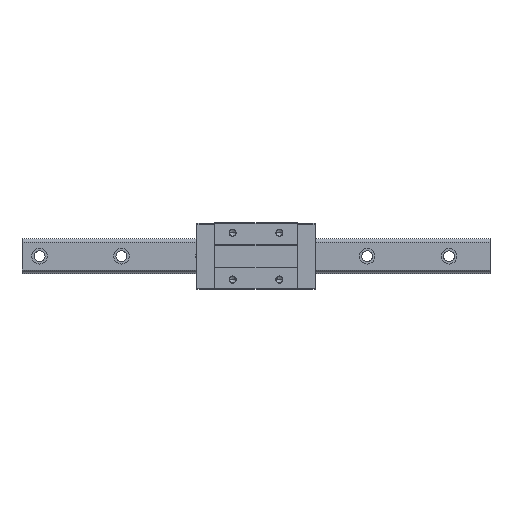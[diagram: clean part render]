
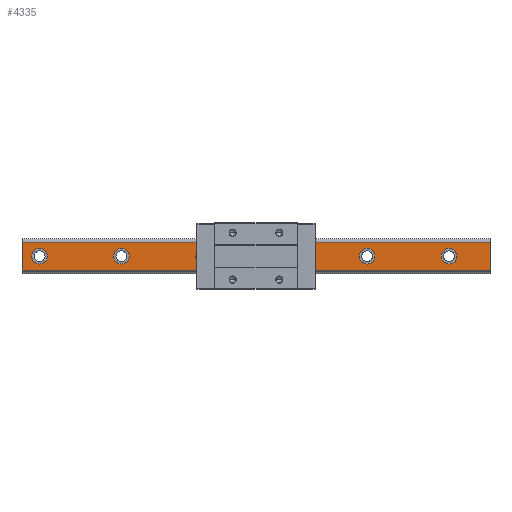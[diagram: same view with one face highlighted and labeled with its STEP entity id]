
A CAD part, top view. The second image highlights one B-rep face of the part: STEP entity #4335.
In plain terms, the highlighted planar face has unit normal (0, 0, 1).
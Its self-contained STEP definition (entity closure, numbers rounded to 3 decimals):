
#63 = VERTEX_POINT ( 'NONE', #4250 ) ;
#66 = EDGE_LOOP ( 'NONE', ( #3176, #923 ) ) ;
#89 = ORIENTED_EDGE ( 'NONE', *, *, #329, .F. ) ;
#180 = LINE ( 'NONE', #1465, #859 ) ;
#195 = ORIENTED_EDGE ( 'NONE', *, *, #621, .F. ) ;
#199 = EDGE_LOOP ( 'NONE', ( #1007, #4805 ) ) ;
#202 = EDGE_CURVE ( 'NONE', #63, #4172, #4275, .T. ) ;
#243 = CARTESIAN_POINT ( 'NONE',  ( 142.5, 0., 32. ) ) ;
#262 = CARTESIAN_POINT ( 'NONE',  ( -182.5, 0., 32. ) ) ;
#287 = ORIENTED_EDGE ( 'NONE', *, *, #1942, .T. ) ;
#329 = EDGE_CURVE ( 'NONE', #2651, #1532, #3235, .T. ) ;
#414 = DIRECTION ( 'NONE',  ( 1., 0., 0. ) ) ;
#433 = CARTESIAN_POINT ( 'NONE',  ( -67.5, 0., 32. ) ) ;
#442 = DIRECTION ( 'NONE',  ( 0., 0., 1. ) ) ;
#448 = CARTESIAN_POINT ( 'NONE',  ( -57.5, 0., 32. ) ) ;
#460 = DIRECTION ( 'NONE',  ( 0., 0., 1. ) ) ;
#493 = EDGE_LOOP ( 'NONE', ( #738, #2271 ) ) ;
#523 = CARTESIAN_POINT ( 'NONE',  ( -162.5, 0., 32. ) ) ;
#561 = CARTESIAN_POINT ( 'NONE',  ( 300., -17.696, 32. ) ) ;
#616 = DIRECTION ( 'NONE',  ( 0., 0., 1. ) ) ;
#621 = EDGE_CURVE ( 'NONE', #1194, #5123, #4410, .T. ) ;
#650 = VERTEX_POINT ( 'NONE', #878 ) ;
#690 = EDGE_LOOP ( 'NONE', ( #4293, #195 ) ) ;
#693 = VERTEX_POINT ( 'NONE', #523 ) ;
#738 = ORIENTED_EDGE ( 'NONE', *, *, #2278, .F. ) ;
#773 = FACE_BOUND ( 'NONE', #1718, .T. ) ;
#775 = CARTESIAN_POINT ( 'NONE',  ( -172.5, 0., 32. ) ) ;
#859 = VECTOR ( 'NONE', #5431, 1000. ) ;
#878 = CARTESIAN_POINT ( 'NONE',  ( 300., 17.696, 32. ) ) ;
#923 = ORIENTED_EDGE ( 'NONE', *, *, #2950, .F. ) ;
#976 = EDGE_CURVE ( 'NONE', #4712, #1610, #1619, .T. ) ;
#1007 = ORIENTED_EDGE ( 'NONE', *, *, #1074, .F. ) ;
#1038 = CIRCLE ( 'NONE', #3306, 10. ) ;
#1051 = DIRECTION ( 'NONE',  ( 0., 0., 1. ) ) ;
#1074 = EDGE_CURVE ( 'NONE', #5376, #5076, #2255, .T. ) ;
#1101 = DIRECTION ( 'NONE',  ( -1., 0., 0. ) ) ;
#1131 = DIRECTION ( 'NONE',  ( 1., 0., 0. ) ) ;
#1163 = FACE_OUTER_BOUND ( 'NONE', #5297, .T. ) ;
#1194 = VERTEX_POINT ( 'NONE', #4803 ) ;
#1207 = AXIS2_PLACEMENT_3D ( 'NONE', #1559, #3316, #5047 ) ;
#1225 = FACE_BOUND ( 'NONE', #66, .T. ) ;
#1277 = CARTESIAN_POINT ( 'NONE',  ( 300., -17.696, 32. ) ) ;
#1278 = DIRECTION ( 'NONE',  ( 1., 0., 0. ) ) ;
#1284 = CARTESIAN_POINT ( 'NONE',  ( 247.5, 0., 32. ) ) ;
#1359 = EDGE_LOOP ( 'NONE', ( #89, #3489 ) ) ;
#1380 = ORIENTED_EDGE ( 'NONE', *, *, #3816, .F. ) ;
#1398 = AXIS2_PLACEMENT_3D ( 'NONE', #4814, #1733, #2613 ) ;
#1406 = CARTESIAN_POINT ( 'NONE',  ( 237.5, 0., 32. ) ) ;
#1465 = CARTESIAN_POINT ( 'NONE',  ( 300., -17.696, 32. ) ) ;
#1528 = DIRECTION ( 'NONE',  ( 0., 0., 1. ) ) ;
#1532 = VERTEX_POINT ( 'NONE', #2766 ) ;
#1559 = CARTESIAN_POINT ( 'NONE',  ( -172.5, 0., 32. ) ) ;
#1610 = VERTEX_POINT ( 'NONE', #4945 ) ;
#1619 = CIRCLE ( 'NONE', #4702, 10. ) ;
#1718 = EDGE_LOOP ( 'NONE', ( #3871, #4628 ) ) ;
#1726 = ORIENTED_EDGE ( 'NONE', *, *, #4545, .F. ) ;
#1733 = DIRECTION ( 'NONE',  ( 0., 0., 1. ) ) ;
#1761 = CIRCLE ( 'NONE', #1946, 10. ) ;
#1842 = CARTESIAN_POINT ( 'NONE',  ( 152.5, 0., 32. ) ) ;
#1936 = DIRECTION ( 'NONE',  ( 0., 0., 1. ) ) ;
#1942 = EDGE_CURVE ( 'NONE', #650, #63, #4861, .T. ) ;
#1946 = AXIS2_PLACEMENT_3D ( 'NONE', #2834, #1936, #1131 ) ;
#1976 = AXIS2_PLACEMENT_3D ( 'NONE', #243, #616, #5044 ) ;
#1998 = DIRECTION ( 'NONE',  ( 0., 0., -1. ) ) ;
#2013 = CARTESIAN_POINT ( 'NONE',  ( 37.5, 0., 32. ) ) ;
#2093 = PLANE ( 'NONE',  #4206 ) ;
#2149 = AXIS2_PLACEMENT_3D ( 'NONE', #433, #1051, #4396 ) ;
#2191 = DIRECTION ( 'NONE',  ( 0., 0., 1. ) ) ;
#2212 = EDGE_CURVE ( 'NONE', #5076, #5376, #3299, .T. ) ;
#2255 = CIRCLE ( 'NONE', #3339, 10. ) ;
#2271 = ORIENTED_EDGE ( 'NONE', *, *, #3438, .F. ) ;
#2278 = EDGE_CURVE ( 'NONE', #693, #5246, #4116, .T. ) ;
#2541 = EDGE_CURVE ( 'NONE', #3031, #2774, #2765, .T. ) ;
#2613 = DIRECTION ( 'NONE',  ( 1., 0., 0. ) ) ;
#2651 = VERTEX_POINT ( 'NONE', #448 ) ;
#2761 = AXIS2_PLACEMENT_3D ( 'NONE', #775, #2191, #5263 ) ;
#2765 = CIRCLE ( 'NONE', #4486, 10. ) ;
#2766 = CARTESIAN_POINT ( 'NONE',  ( -77.5, 0., 32. ) ) ;
#2774 = VERTEX_POINT ( 'NONE', #1406 ) ;
#2785 = LINE ( 'NONE', #561, #3774 ) ;
#2834 = CARTESIAN_POINT ( 'NONE',  ( 37.5, 0., 32. ) ) ;
#2870 = FACE_BOUND ( 'NONE', #1359, .T. ) ;
#2950 = EDGE_CURVE ( 'NONE', #1610, #4712, #1761, .T. ) ;
#3028 = CIRCLE ( 'NONE', #3297, 10. ) ;
#3031 = VERTEX_POINT ( 'NONE', #4630 ) ;
#3033 = CARTESIAN_POINT ( 'NONE',  ( -67.5, 0., 32. ) ) ;
#3050 = VECTOR ( 'NONE', #5579, 1000. ) ;
#3055 = CARTESIAN_POINT ( 'NONE',  ( -287.5, 0., 32. ) ) ;
#3098 = VERTEX_POINT ( 'NONE', #1277 ) ;
#3154 = CARTESIAN_POINT ( 'NONE',  ( -300., -17.696, 32. ) ) ;
#3176 = ORIENTED_EDGE ( 'NONE', *, *, #976, .F. ) ;
#3217 = CIRCLE ( 'NONE', #2149, 10. ) ;
#3235 = CIRCLE ( 'NONE', #3695, 10. ) ;
#3297 = AXIS2_PLACEMENT_3D ( 'NONE', #1284, #442, #414 ) ;
#3299 = CIRCLE ( 'NONE', #1398, 10. ) ;
#3306 = AXIS2_PLACEMENT_3D ( 'NONE', #4259, #460, #1278 ) ;
#3316 = DIRECTION ( 'NONE',  ( 0., 0., 1. ) ) ;
#3339 = AXIS2_PLACEMENT_3D ( 'NONE', #3913, #3473, #4328 ) ;
#3346 = DIRECTION ( 'NONE',  ( 0., 0., 1. ) ) ;
#3378 = DIRECTION ( 'NONE',  ( 0., 0., 1. ) ) ;
#3438 = EDGE_CURVE ( 'NONE', #5246, #693, #5190, .T. ) ;
#3473 = DIRECTION ( 'NONE',  ( 0., 0., 1. ) ) ;
#3489 = ORIENTED_EDGE ( 'NONE', *, *, #4503, .F. ) ;
#3656 = VECTOR ( 'NONE', #4403, 1000. ) ;
#3695 = AXIS2_PLACEMENT_3D ( 'NONE', #3033, #3378, #5104 ) ;
#3698 = FACE_BOUND ( 'NONE', #493, .T. ) ;
#3737 = DIRECTION ( 'NONE',  ( 1., 0., 0. ) ) ;
#3773 = CARTESIAN_POINT ( 'NONE',  ( 247.5, 0., 32. ) ) ;
#3774 = VECTOR ( 'NONE', #4932, 1000. ) ;
#3816 = EDGE_CURVE ( 'NONE', #3098, #4172, #180, .T. ) ;
#3870 = CARTESIAN_POINT ( 'NONE',  ( -300., -17.696, 32. ) ) ;
#3871 = ORIENTED_EDGE ( 'NONE', *, *, #2541, .F. ) ;
#3913 = CARTESIAN_POINT ( 'NONE',  ( -277.5, 0., 32. ) ) ;
#4116 = CIRCLE ( 'NONE', #2761, 10. ) ;
#4172 = VERTEX_POINT ( 'NONE', #3154 ) ;
#4206 = AXIS2_PLACEMENT_3D ( 'NONE', #5109, #1998, #1101 ) ;
#4224 = CARTESIAN_POINT ( 'NONE',  ( 47.5, 0., 32. ) ) ;
#4250 = CARTESIAN_POINT ( 'NONE',  ( -300., 17.696, 32. ) ) ;
#4259 = CARTESIAN_POINT ( 'NONE',  ( 142.5, 0., 32. ) ) ;
#4275 = LINE ( 'NONE', #3870, #3050 ) ;
#4293 = ORIENTED_EDGE ( 'NONE', *, *, #4400, .F. ) ;
#4328 = DIRECTION ( 'NONE',  ( 1., 0., 0. ) ) ;
#4335 = ADVANCED_FACE ( 'NONE', ( #4659, #3698, #2870, #1225, #5054, #773, #1163 ), #2093, .F. ) ;
#4396 = DIRECTION ( 'NONE',  ( 1., 0., 0. ) ) ;
#4400 = EDGE_CURVE ( 'NONE', #5123, #1194, #1038, .T. ) ;
#4403 = DIRECTION ( 'NONE',  ( -1., 0., 0. ) ) ;
#4410 = CIRCLE ( 'NONE', #1976, 10. ) ;
#4486 = AXIS2_PLACEMENT_3D ( 'NONE', #3773, #3346, #3737 ) ;
#4503 = EDGE_CURVE ( 'NONE', #1532, #2651, #3217, .T. ) ;
#4519 = CARTESIAN_POINT ( 'NONE',  ( 300., 17.696, 32. ) ) ;
#4545 = EDGE_CURVE ( 'NONE', #650, #3098, #2785, .T. ) ;
#4628 = ORIENTED_EDGE ( 'NONE', *, *, #5509, .F. ) ;
#4630 = CARTESIAN_POINT ( 'NONE',  ( 257.5, 0., 32. ) ) ;
#4659 = FACE_BOUND ( 'NONE', #199, .T. ) ;
#4702 = AXIS2_PLACEMENT_3D ( 'NONE', #2013, #1528, #5403 ) ;
#4712 = VERTEX_POINT ( 'NONE', #4224 ) ;
#4803 = CARTESIAN_POINT ( 'NONE',  ( 132.5, 0., 32. ) ) ;
#4805 = ORIENTED_EDGE ( 'NONE', *, *, #2212, .F. ) ;
#4814 = CARTESIAN_POINT ( 'NONE',  ( -277.5, 0., 32. ) ) ;
#4861 = LINE ( 'NONE', #4519, #3656 ) ;
#4932 = DIRECTION ( 'NONE',  ( 0., -1., 0. ) ) ;
#4945 = CARTESIAN_POINT ( 'NONE',  ( 27.5, 0., 32. ) ) ;
#5044 = DIRECTION ( 'NONE',  ( 1., 0., 0. ) ) ;
#5047 = DIRECTION ( 'NONE',  ( 1., 0., 0. ) ) ;
#5054 = FACE_BOUND ( 'NONE', #690, .T. ) ;
#5076 = VERTEX_POINT ( 'NONE', #3055 ) ;
#5104 = DIRECTION ( 'NONE',  ( 1., 0., 0. ) ) ;
#5109 = CARTESIAN_POINT ( 'NONE',  ( 300., -17.696, 32. ) ) ;
#5123 = VERTEX_POINT ( 'NONE', #1842 ) ;
#5190 = CIRCLE ( 'NONE', #1207, 10. ) ;
#5246 = VERTEX_POINT ( 'NONE', #262 ) ;
#5263 = DIRECTION ( 'NONE',  ( 1., 0., 0. ) ) ;
#5297 = EDGE_LOOP ( 'NONE', ( #5611, #1380, #1726, #287 ) ) ;
#5376 = VERTEX_POINT ( 'NONE', #5400 ) ;
#5400 = CARTESIAN_POINT ( 'NONE',  ( -267.5, 0., 32. ) ) ;
#5403 = DIRECTION ( 'NONE',  ( 1., 0., 0. ) ) ;
#5431 = DIRECTION ( 'NONE',  ( -1., 0., 0. ) ) ;
#5509 = EDGE_CURVE ( 'NONE', #2774, #3031, #3028, .T. ) ;
#5579 = DIRECTION ( 'NONE',  ( 0., -1., 0. ) ) ;
#5611 = ORIENTED_EDGE ( 'NONE', *, *, #202, .T. ) ;
